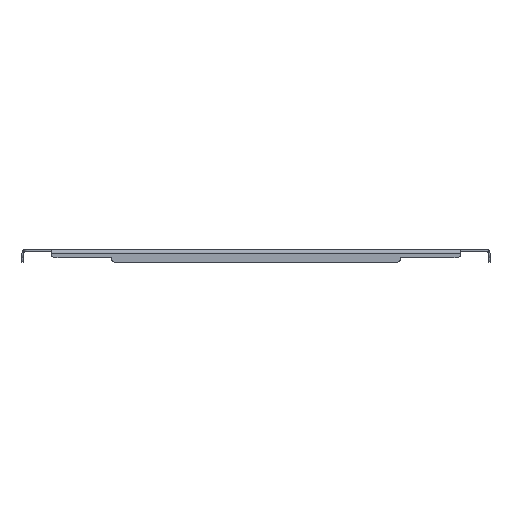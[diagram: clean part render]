
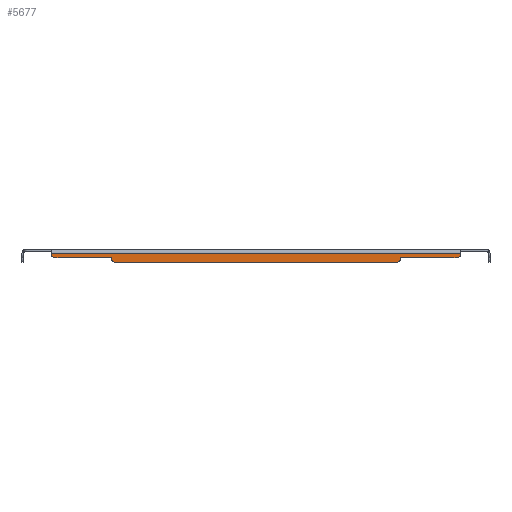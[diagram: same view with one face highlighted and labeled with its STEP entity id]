
A CAD part, front view. The second image highlights one B-rep face of the part: STEP entity #5677.
In plain terms, the highlighted planar face has unit normal (0, -1, 0).
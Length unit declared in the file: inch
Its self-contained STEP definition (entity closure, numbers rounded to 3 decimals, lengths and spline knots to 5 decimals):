
#1838=DIRECTION('',(-1.,0.,0.));
#1839=VECTOR('',#1838,27.9375);
#1840=CARTESIAN_POINT('',(13.96875,-23.96875,-0.237));
#1841=LINE('',#1840,#1839);
#1952=CARTESIAN_POINT('',(13.71875,-23.96875,-0.3125));
#1953=DIRECTION('',(0.,-1.,0.));
#1954=DIRECTION('',(0.,0.,-1.));
#1955=AXIS2_PLACEMENT_3D('',#1952,#1953,#1954);
#1960=DIRECTION('',(-1.,0.,0.));
#1961=VECTOR('',#1960,3.875);
#1962=CARTESIAN_POINT('',(13.71875,-23.96875,-0.5625));
#1963=LINE('',#1962,#1961);
#1967=DIRECTION('',(0.,0.,1.));
#1968=VECTOR('',#1967,0.0625);
#1969=CARTESIAN_POINT('',(9.84375,-23.96875,-0.625));
#1970=LINE('',#1969,#1968);
#1974=CARTESIAN_POINT('',(9.59375,-23.96875,-0.625));
#1975=DIRECTION('',(0.,-1.,0.));
#1976=DIRECTION('',(0.,0.,-1.));
#1977=AXIS2_PLACEMENT_3D('',#1974,#1975,#1976);
#1982=DIRECTION('',(1.,0.,0.));
#1983=VECTOR('',#1982,19.1875);
#1984=CARTESIAN_POINT('',(-9.59375,-23.96875,-0.875));
#1985=LINE('',#1984,#1983);
#1989=CARTESIAN_POINT('',(-9.59375,-23.96875,-0.625));
#1990=DIRECTION('',(0.,-1.,0.));
#1991=DIRECTION('',(-1.,0.,0.));
#1992=AXIS2_PLACEMENT_3D('',#1989,#1990,#1991);
#1997=DIRECTION('',(0.,0.,1.));
#1998=VECTOR('',#1997,0.0625);
#1999=CARTESIAN_POINT('',(-9.84375,-23.96875,-0.625));
#2000=LINE('',#1999,#1998);
#2004=DIRECTION('',(1.,0.,0.));
#2005=VECTOR('',#2004,3.875);
#2006=CARTESIAN_POINT('',(-13.71875,-23.96875,-0.5625));
#2007=LINE('',#2006,#2005);
#2011=CARTESIAN_POINT('',(-13.71875,-23.96875,-0.3125));
#2012=DIRECTION('',(0.,-1.,0.));
#2013=DIRECTION('',(-1.,0.,0.));
#2014=AXIS2_PLACEMENT_3D('',#2011,#2012,#2013);
#2019=DIRECTION('',(0.,0.,-1.));
#2020=VECTOR('',#2019,0.0755);
#2021=CARTESIAN_POINT('',(-13.96875,-23.96875,-0.237));
#2022=LINE('',#2021,#2020);
#2026=DIRECTION('',(0.,0.,1.));
#2027=VECTOR('',#2026,0.0755);
#2028=CARTESIAN_POINT('',(13.96875,-23.96875,-0.3125));
#2029=LINE('',#2028,#2027);
#2617=CARTESIAN_POINT('',(13.96875,-23.96875,-0.237));
#2618=CARTESIAN_POINT('',(-13.96875,-23.96875,-0.237));
#2619=VERTEX_POINT('',#2617);
#2620=VERTEX_POINT('',#2618);
#2905=CARTESIAN_POINT('',(9.84375,-23.96875,-0.5625));
#2907=VERTEX_POINT('',#2905);
#2909=CARTESIAN_POINT('',(-9.84375,-23.96875,-0.5625));
#2911=VERTEX_POINT('',#2909);
#3033=CARTESIAN_POINT('',(13.71875,-23.96875,-0.5625));
#3034=CARTESIAN_POINT('',(13.96875,-23.96875,-0.3125));
#3035=VERTEX_POINT('',#3033);
#3036=VERTEX_POINT('',#3034);
#3041=CARTESIAN_POINT('',(9.59375,-23.96875,-0.875));
#3042=CARTESIAN_POINT('',(9.84375,-23.96875,-0.625));
#3043=VERTEX_POINT('',#3041);
#3044=VERTEX_POINT('',#3042);
#3049=CARTESIAN_POINT('',(-9.84375,-23.96875,-0.625));
#3050=CARTESIAN_POINT('',(-9.59375,-23.96875,-0.875));
#3051=VERTEX_POINT('',#3049);
#3052=VERTEX_POINT('',#3050);
#3057=CARTESIAN_POINT('',(-13.96875,-23.96875,-0.3125));
#3058=CARTESIAN_POINT('',(-13.71875,-23.96875,-0.5625));
#3059=VERTEX_POINT('',#3057);
#3060=VERTEX_POINT('',#3058);
#5649=CARTESIAN_POINT('',(-15.84375,-23.96875,0.));
#5650=DIRECTION('',(0.,-1.,0.));
#5651=DIRECTION('',(-1.,0.,0.));
#5652=AXIS2_PLACEMENT_3D('',#5649,#5650,#5651);
#5653=PLANE('',#5652);
#5655=ORIENTED_EDGE('',*,*,#5654,.F.);
#5657=ORIENTED_EDGE('',*,*,#5656,.T.);
#5659=ORIENTED_EDGE('',*,*,#5658,.F.);
#5661=ORIENTED_EDGE('',*,*,#5660,.F.);
#5663=ORIENTED_EDGE('',*,*,#5662,.F.);
#5665=ORIENTED_EDGE('',*,*,#5664,.F.);
#5667=ORIENTED_EDGE('',*,*,#5666,.T.);
#5669=ORIENTED_EDGE('',*,*,#5668,.F.);
#5670=ORIENTED_EDGE('',*,*,#5632,.F.);
#5671=ORIENTED_EDGE('',*,*,#5615,.F.);
#5672=ORIENTED_EDGE('',*,*,#5372,.F.);
#5674=ORIENTED_EDGE('',*,*,#5673,.F.);
#5675=EDGE_LOOP('',(#5655,#5657,#5659,#5661,#5663,#5665,#5667,#5669,#5670,#5671,
#5672,#5674));
#5676=FACE_OUTER_BOUND('',#5675,.F.);
#1956=CIRCLE('',#1955,0.25);
#1978=CIRCLE('',#1977,0.25);
#1993=CIRCLE('',#1992,0.25);
#2015=CIRCLE('',#2014,0.25);
#5372=EDGE_CURVE('',#2619,#2620,#1841,.T.);
#5615=EDGE_CURVE('',#2620,#3059,#2022,.T.);
#5632=EDGE_CURVE('',#3059,#3060,#2015,.T.);
#5654=EDGE_CURVE('',#3035,#3036,#1956,.T.);
#5656=EDGE_CURVE('',#3035,#2907,#1963,.T.);
#5658=EDGE_CURVE('',#3044,#2907,#1970,.T.);
#5660=EDGE_CURVE('',#3043,#3044,#1978,.T.);
#5662=EDGE_CURVE('',#3052,#3043,#1985,.T.);
#5664=EDGE_CURVE('',#3051,#3052,#1993,.T.);
#5666=EDGE_CURVE('',#3051,#2911,#2000,.T.);
#5668=EDGE_CURVE('',#3060,#2911,#2007,.T.);
#5673=EDGE_CURVE('',#3036,#2619,#2029,.T.);
#5677=ADVANCED_FACE('',(#5676),#5653,.T.);
